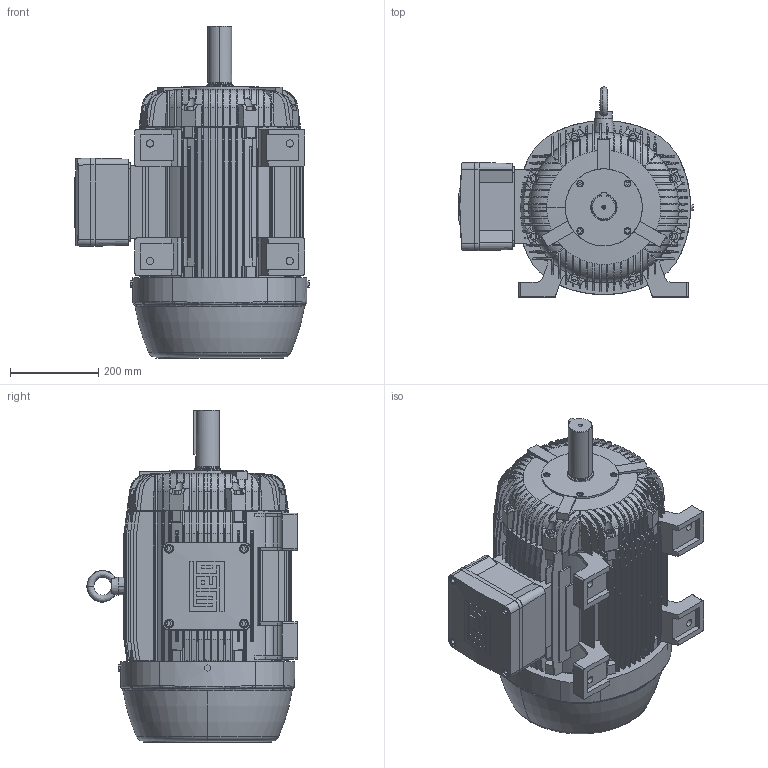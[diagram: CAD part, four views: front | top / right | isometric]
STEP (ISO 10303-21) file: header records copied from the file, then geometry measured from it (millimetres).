
FILE_DESCRIPTION (( 'STEP AP203' ), '1' );
FILE_NAME ('324T_LEFT.STEP', '2011-03-15T15:54:04', ( 'suppor' ), ( '' ), 'SwSTEP 2.0', 'SolidWorks 2009', '' );
FILE_SCHEMA (( 'CONFIG_CONTROL_DESIGN' ));
Products named in the file (1): 324T_LEFT
Bounding box: 532.2 x 477.19 x 753.54 mm (x, y, z)
Surface area: 3130435 mm2 (no closed solid volume)
Topology: 0 solids, 11 shells, 1900 faces, 5224 edges, 3433 vertices
Faces by surface type: plane 1318, cylinder 237, cone 188, bspline 84, torus 71, sphere 2
Entity records: 77517 total; most frequent: CARTESIAN_POINT 30028, ORIENTED_EDGE 10444, DIRECTION 9203, EDGE_CURVE 5222, VERTEX_POINT 3433, LINE 3087, VECTOR 3087, AXIS2_PLACEMENT_3D 3058
